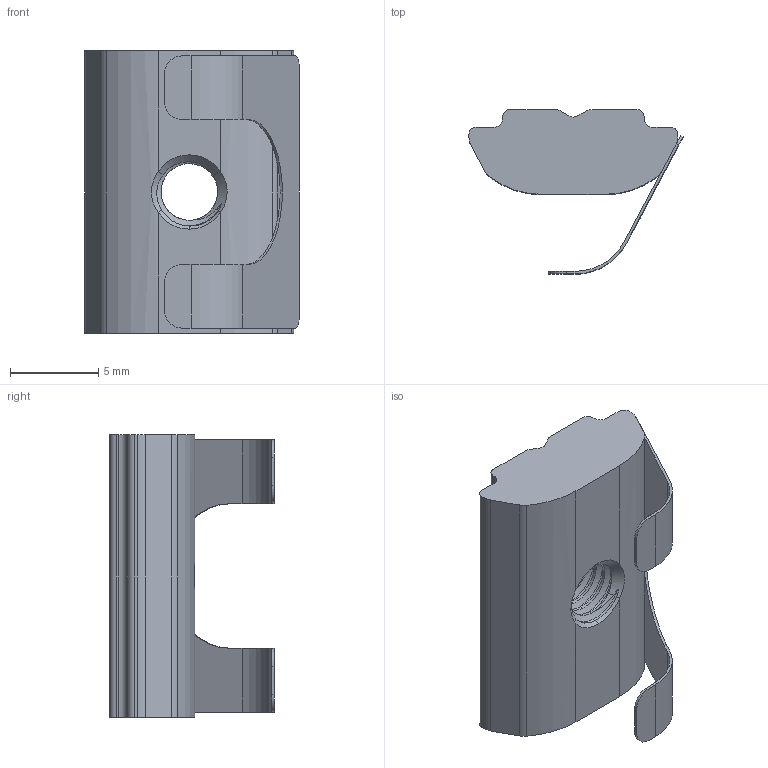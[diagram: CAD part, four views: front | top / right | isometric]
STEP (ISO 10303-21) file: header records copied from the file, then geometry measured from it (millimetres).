
FILE_DESCRIPTION (( 'STEP AP203' ), '1' );
FILE_NAME ('3306.008.001.STEP', '2023-05-24T04:59:16', ( '' ), ( '' ), 'SwSTEP 2.0', 'SolidWorks 2022', '' );
FILE_SCHEMA (( 'CONFIG_CONTROL_DESIGN' ));
Length unit declared in the file: millimetre
Products named in the file (3): 3306; 3306-粟え; 3306.008.001
Assembly tree (2 placements, depth 2):
  3306.008.001
    3306
    3306-粟え
Bounding box: 12.11 x 9.3 x 16 mm (x, y, z)
Volume: 705.2 mm3; surface area: 836.6 mm2
Topology: 2 solids, 2 shells, 84 faces, 242 edges, 160 vertices
Faces by surface type: cylinder 41, plane 31, cone 6, bspline 6
Entity records: 5299 total; most frequent: CARTESIAN_POINT 2909, ORIENTED_EDGE 484, DIRECTION 403, EDGE_CURVE 242, VERTEX_POINT 160, AXIS2_PLACEMENT_3D 142, VECTOR 119, LINE 119
